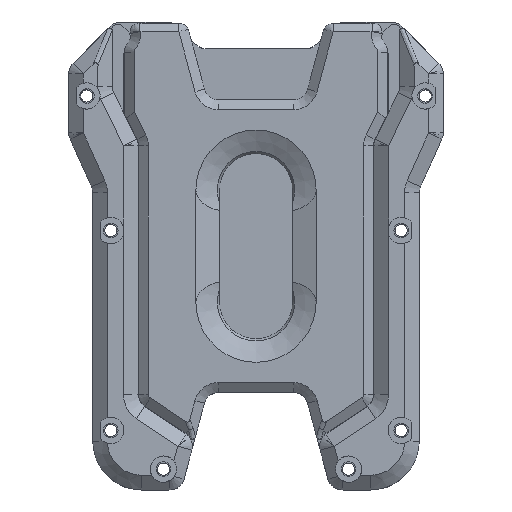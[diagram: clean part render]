
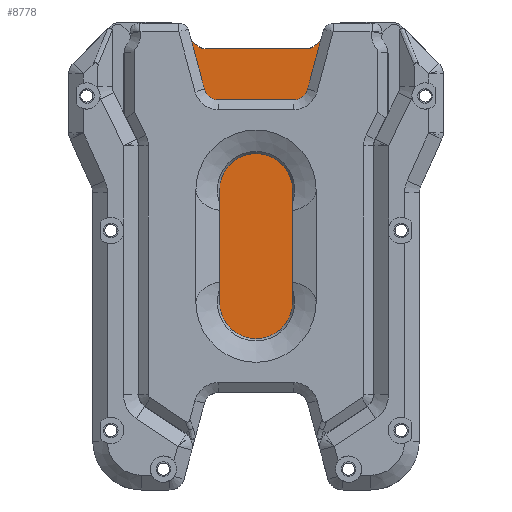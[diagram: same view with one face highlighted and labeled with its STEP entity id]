
A CAD part, top view. The second image highlights one B-rep face of the part: STEP entity #8778.
In plain terms, the highlighted planar face has unit normal (0, 0, 1).
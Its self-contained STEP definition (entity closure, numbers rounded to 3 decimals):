
#540=PLANE('',#9476);
#838=FACE_OUTER_BOUND('',#1380,.T.);
#1380=EDGE_LOOP('',(#6675,#6676,#6677,#6678,#6679,#6680,#6681,#6682,#6683,
#6684,#6685,#6686,#6687,#6688,#6689,#6690,#6691,#6692,#6693,#6694));
#2039=LINE('',#14393,#2733);
#2044=LINE('',#14406,#2738);
#2048=LINE('',#14418,#2742);
#2051=LINE('',#14426,#2745);
#2056=LINE('',#14439,#2750);
#2060=LINE('',#14451,#2754);
#2061=LINE('',#14454,#2755);
#2062=LINE('',#14456,#2756);
#2063=LINE('',#14460,#2757);
#2064=LINE('',#14463,#2758);
#2065=LINE('',#14465,#2759);
#2066=LINE('',#14469,#2760);
#2733=VECTOR('',#11071,10.);
#2738=VECTOR('',#11084,10.);
#2742=VECTOR('',#11096,10.);
#2745=VECTOR('',#11101,10.);
#2750=VECTOR('',#11114,10.);
#2754=VECTOR('',#11126,10.);
#2755=VECTOR('',#11129,10.);
#2756=VECTOR('',#11130,10.);
#2757=VECTOR('',#11133,10.);
#2758=VECTOR('',#11136,10.);
#2759=VECTOR('',#11137,10.);
#2760=VECTOR('',#11140,10.);
#3285=CIRCLE('',#9461,3.);
#3287=CIRCLE('',#9465,3.);
#3289=CIRCLE('',#9470,3.);
#3291=CIRCLE('',#9474,3.);
#3292=CIRCLE('',#9477,3.);
#3293=CIRCLE('',#9478,3.);
#3294=CIRCLE('',#9479,3.);
#3295=CIRCLE('',#9480,3.);
#3847=VERTEX_POINT('',#14390);
#3848=VERTEX_POINT('',#14392);
#3850=VERTEX_POINT('',#14398);
#3852=VERTEX_POINT('',#14404);
#3854=VERTEX_POINT('',#14410);
#3856=VERTEX_POINT('',#14416);
#3859=VERTEX_POINT('',#14423);
#3860=VERTEX_POINT('',#14425);
#3862=VERTEX_POINT('',#14431);
#3864=VERTEX_POINT('',#14437);
#3866=VERTEX_POINT('',#14443);
#3868=VERTEX_POINT('',#14449);
#3869=VERTEX_POINT('',#14453);
#3870=VERTEX_POINT('',#14455);
#3871=VERTEX_POINT('',#14457);
#3872=VERTEX_POINT('',#14459);
#3873=VERTEX_POINT('',#14461);
#3874=VERTEX_POINT('',#14464);
#3875=VERTEX_POINT('',#14466);
#3876=VERTEX_POINT('',#14468);
#4844=EDGE_CURVE('',#3847,#3848,#2039,.T.);
#4848=EDGE_CURVE('',#3850,#3847,#3285,.T.);
#4851=EDGE_CURVE('',#3852,#3850,#2044,.T.);
#4854=EDGE_CURVE('',#3854,#3852,#3287,.T.);
#4857=EDGE_CURVE('',#3856,#3854,#2048,.T.);
#4860=EDGE_CURVE('',#3859,#3860,#2051,.T.);
#4864=EDGE_CURVE('',#3862,#3859,#3289,.T.);
#4867=EDGE_CURVE('',#3864,#3862,#2056,.T.);
#4870=EDGE_CURVE('',#3866,#3864,#3291,.T.);
#4873=EDGE_CURVE('',#3868,#3866,#2060,.T.);
#4874=EDGE_CURVE('',#3848,#3869,#2061,.T.);
#4875=EDGE_CURVE('',#3870,#3856,#2062,.T.);
#4876=EDGE_CURVE('',#3871,#3870,#3292,.T.);
#4877=EDGE_CURVE('',#3872,#3871,#2063,.T.);
#4878=EDGE_CURVE('',#3873,#3872,#3293,.T.);
#4879=EDGE_CURVE('',#3860,#3873,#2064,.T.);
#4880=EDGE_CURVE('',#3874,#3868,#2065,.T.);
#4881=EDGE_CURVE('',#3875,#3874,#3294,.T.);
#4882=EDGE_CURVE('',#3876,#3875,#2066,.T.);
#4883=EDGE_CURVE('',#3869,#3876,#3295,.T.);
#6675=ORIENTED_EDGE('',*,*,#4874,.F.);
#6676=ORIENTED_EDGE('',*,*,#4844,.F.);
#6677=ORIENTED_EDGE('',*,*,#4848,.F.);
#6678=ORIENTED_EDGE('',*,*,#4851,.F.);
#6679=ORIENTED_EDGE('',*,*,#4854,.F.);
#6680=ORIENTED_EDGE('',*,*,#4857,.F.);
#6681=ORIENTED_EDGE('',*,*,#4875,.F.);
#6682=ORIENTED_EDGE('',*,*,#4876,.F.);
#6683=ORIENTED_EDGE('',*,*,#4877,.F.);
#6684=ORIENTED_EDGE('',*,*,#4878,.F.);
#6685=ORIENTED_EDGE('',*,*,#4879,.F.);
#6686=ORIENTED_EDGE('',*,*,#4860,.F.);
#6687=ORIENTED_EDGE('',*,*,#4864,.F.);
#6688=ORIENTED_EDGE('',*,*,#4867,.F.);
#6689=ORIENTED_EDGE('',*,*,#4870,.F.);
#6690=ORIENTED_EDGE('',*,*,#4873,.F.);
#6691=ORIENTED_EDGE('',*,*,#4880,.F.);
#6692=ORIENTED_EDGE('',*,*,#4881,.F.);
#6693=ORIENTED_EDGE('',*,*,#4882,.F.);
#6694=ORIENTED_EDGE('',*,*,#4883,.F.);
#8778=ADVANCED_FACE('',(#838),#540,.T.);
#9461=AXIS2_PLACEMENT_3D('',#14400,#11078,#11079);
#9465=AXIS2_PLACEMENT_3D('',#14412,#11090,#11091);
#9470=AXIS2_PLACEMENT_3D('',#14433,#11108,#11109);
#9474=AXIS2_PLACEMENT_3D('',#14445,#11120,#11121);
#9476=AXIS2_PLACEMENT_3D('',#14452,#11127,#11128);
#9477=AXIS2_PLACEMENT_3D('',#14458,#11131,#11132);
#9478=AXIS2_PLACEMENT_3D('',#14462,#11134,#11135);
#9479=AXIS2_PLACEMENT_3D('',#14467,#11138,#11139);
#9480=AXIS2_PLACEMENT_3D('',#14470,#11141,#11142);
#11071=DIRECTION('',(-1.,0.,0.));
#11078=DIRECTION('center_axis',(0.,0.,-1.));
#11079=DIRECTION('ref_axis',(0.,-1.,0.));
#11084=DIRECTION('',(0.,-1.,0.));
#11090=DIRECTION('center_axis',(0.,0.,-1.));
#11091=DIRECTION('ref_axis',(1.,0.,0.));
#11096=DIRECTION('',(1.,0.,0.));
#11101=DIRECTION('',(1.,0.,0.));
#11108=DIRECTION('center_axis',(0.,0.,-1.));
#11109=DIRECTION('ref_axis',(0.,1.,0.));
#11114=DIRECTION('',(0.,1.,0.));
#11120=DIRECTION('center_axis',(0.,0.,-1.));
#11121=DIRECTION('ref_axis',(-1.,0.,0.));
#11126=DIRECTION('',(-1.,0.,0.));
#11127=DIRECTION('center_axis',(0.,0.,1.));
#11128=DIRECTION('ref_axis',(-1.,0.,0.));
#11129=DIRECTION('',(-0.259,0.966,0.));
#11130=DIRECTION('',(0.709,0.705,0.));
#11131=DIRECTION('center_axis',(0.,0.,1.));
#11132=DIRECTION('ref_axis',(0.381,-0.924,0.));
#11133=DIRECTION('',(1.,0.,0.));
#11134=DIRECTION('center_axis',(0.,0.,1.));
#11135=DIRECTION('ref_axis',(-0.381,-0.924,0.));
#11136=DIRECTION('',(0.709,-0.705,0.));
#11137=DIRECTION('',(-0.259,-0.966,0.));
#11138=DIRECTION('center_axis',(0.,0.,1.));
#11139=DIRECTION('ref_axis',(-0.609,0.793,0.));
#11140=DIRECTION('',(-1.,0.,0.));
#11141=DIRECTION('center_axis',(0.,0.,1.));
#11142=DIRECTION('ref_axis',(0.609,0.793,0.));
#14390=CARTESIAN_POINT('',(23.99,-42.8,-0.52));
#14392=CARTESIAN_POINT('',(13.43,-42.8,-0.52));
#14393=CARTESIAN_POINT('',(-23.99,-42.8,-0.52));
#14398=CARTESIAN_POINT('',(26.99,-39.8,-0.52));
#14400=CARTESIAN_POINT('Origin',(23.99,-39.8,-0.52));
#14404=CARTESIAN_POINT('',(26.99,39.8,-0.52));
#14406=CARTESIAN_POINT('',(26.99,-39.8,-0.52));
#14410=CARTESIAN_POINT('',(23.99,42.8,-0.52));
#14412=CARTESIAN_POINT('Origin',(23.99,39.8,-0.52));
#14416=CARTESIAN_POINT('',(13.754,42.8,-0.52));
#14418=CARTESIAN_POINT('',(23.99,42.8,-0.52));
#14423=CARTESIAN_POINT('',(-23.99,42.8,-0.52));
#14425=CARTESIAN_POINT('',(-13.754,42.8,-0.52));
#14426=CARTESIAN_POINT('',(23.99,42.8,-0.52));
#14431=CARTESIAN_POINT('',(-26.99,39.8,-0.52));
#14433=CARTESIAN_POINT('Origin',(-23.99,39.8,-0.52));
#14437=CARTESIAN_POINT('',(-26.99,-39.8,-0.52));
#14439=CARTESIAN_POINT('',(-26.99,39.8,-0.52));
#14443=CARTESIAN_POINT('',(-23.99,-42.8,-0.52));
#14445=CARTESIAN_POINT('Origin',(-23.99,-39.8,-0.52));
#14449=CARTESIAN_POINT('',(-13.43,-42.8,-0.52));
#14451=CARTESIAN_POINT('',(-23.99,-42.8,-0.52));
#14452=CARTESIAN_POINT('Origin',(0.,0.,-0.52));
#14453=CARTESIAN_POINT('',(10.596,-32.224,-0.52));
#14454=CARTESIAN_POINT('',(6.213,-15.867,-0.52));
#14455=CARTESIAN_POINT('',(12.33,41.384,-0.52));
#14456=CARTESIAN_POINT('',(0.766,29.886,-0.52));
#14457=CARTESIAN_POINT('',(10.215,40.512,-0.52));
#14458=CARTESIAN_POINT('Origin',(10.215,43.512,-0.52));
#14459=CARTESIAN_POINT('',(-10.215,40.512,-0.52));
#14460=CARTESIAN_POINT('',(5.107,40.512,-0.52));
#14461=CARTESIAN_POINT('',(-12.33,41.384,-0.52));
#14462=CARTESIAN_POINT('Origin',(-10.215,43.512,-0.52));
#14463=CARTESIAN_POINT('',(1.116,28.014,-0.52));
#14464=CARTESIAN_POINT('',(-10.596,-32.224,-0.52));
#14465=CARTESIAN_POINT('',(-8.297,-23.643,-0.52));
#14466=CARTESIAN_POINT('',(-7.698,-30.,-0.52));
#14467=CARTESIAN_POINT('Origin',(-7.698,-33.,-0.52));
#14468=CARTESIAN_POINT('',(7.698,-30.,-0.52));
#14469=CARTESIAN_POINT('',(-3.849,-30.,-0.52));
#14470=CARTESIAN_POINT('Origin',(7.698,-33.,-0.52));
